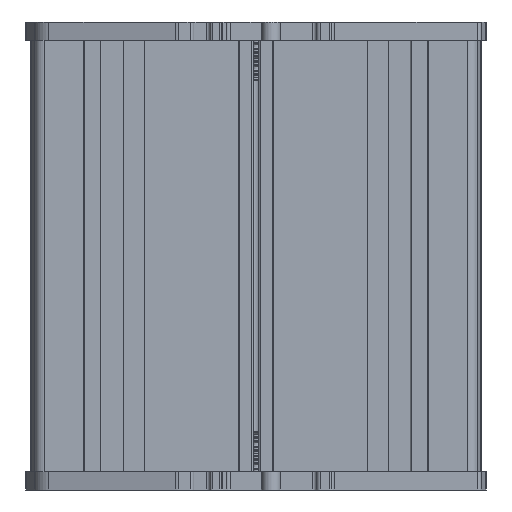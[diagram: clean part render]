
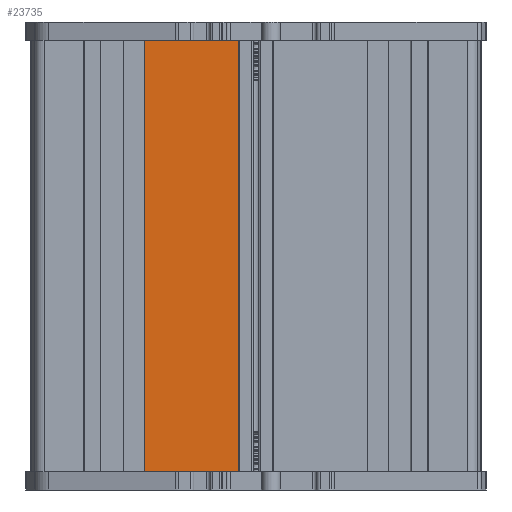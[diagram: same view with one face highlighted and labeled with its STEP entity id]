
A CAD part, front view. The second image highlights one B-rep face of the part: STEP entity #23735.
In plain terms, the highlighted planar face has unit normal (0, -1, 0).
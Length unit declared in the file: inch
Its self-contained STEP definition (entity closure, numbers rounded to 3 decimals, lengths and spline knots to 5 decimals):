
#3685=DIRECTION('',(1.,0.,0.));
#3686=VECTOR('',#3685,1.07087);
#3687=CARTESIAN_POINT('',(1.21304,0.14014,0.));
#3688=LINE('',#3687,#3686);
#3689=DIRECTION('',(0.,0.,1.));
#3690=VECTOR('',#3689,4.78346);
#3691=CARTESIAN_POINT('',(1.21304,0.14014,0.));
#3692=LINE('',#3691,#3690);
#3693=DIRECTION('',(1.,0.,0.));
#3694=VECTOR('',#3693,1.07087);
#3695=CARTESIAN_POINT('',(1.21304,0.14014,4.78346));
#3696=LINE('',#3695,#3694);
#3702=DIRECTION('',(0.,0.,1.));
#3703=VECTOR('',#3702,4.78346);
#3704=CARTESIAN_POINT('',(2.28391,0.14014,0.));
#3705=LINE('',#3704,#3703);
#17132=CARTESIAN_POINT('',(1.21304,0.14014,
4.78346));
#17133=VERTEX_POINT('',#17132);
#17134=CARTESIAN_POINT('',(2.28391,0.14014,
4.78346));
#17135=VERTEX_POINT('',#17134);
#18520=CARTESIAN_POINT('',(1.21304,0.14014,0.));
#18521=VERTEX_POINT('',#18520);
#18522=CARTESIAN_POINT('',(2.28391,0.14014,0.));
#18523=VERTEX_POINT('',#18522);
#23723=CARTESIAN_POINT('',(1.21304,0.14014,0.));
#23724=DIRECTION('',(0.,-1.,0.));
#23725=DIRECTION('',(1.,0.,0.));
#23726=AXIS2_PLACEMENT_3D('',#23723,#23724,#23725);
#23727=PLANE('',#23726);
#23728=ORIENTED_EDGE('',*,*,#23259,.F.);
#23729=ORIENTED_EDGE('',*,*,#23718,.T.);
#23730=ORIENTED_EDGE('',*,*,#22577,.T.);
#23732=ORIENTED_EDGE('',*,*,#23731,.F.);
#23733=EDGE_LOOP('',(#23728,#23729,#23730,#23732));
#23734=FACE_OUTER_BOUND('',#23733,.F.);
#23735=ADVANCED_FACE('',(#23734),#23727,.T.);
#22577=EDGE_CURVE('',#17133,#17135,#3696,.T.);
#23259=EDGE_CURVE('',#18521,#18523,#3688,.T.);
#23718=EDGE_CURVE('',#18521,#17133,#3692,.T.);
#23731=EDGE_CURVE('',#18523,#17135,#3705,.T.);
